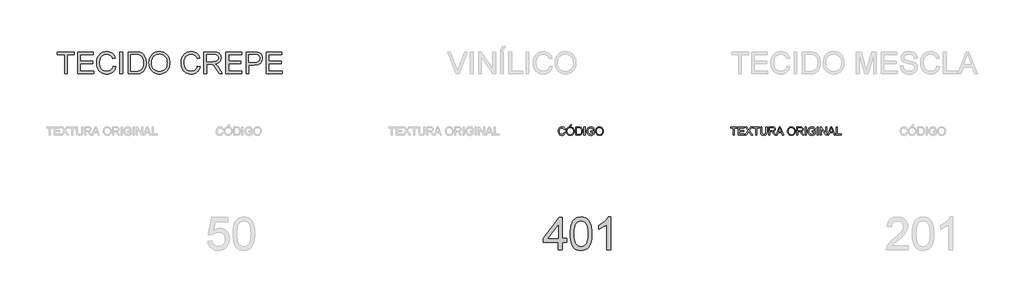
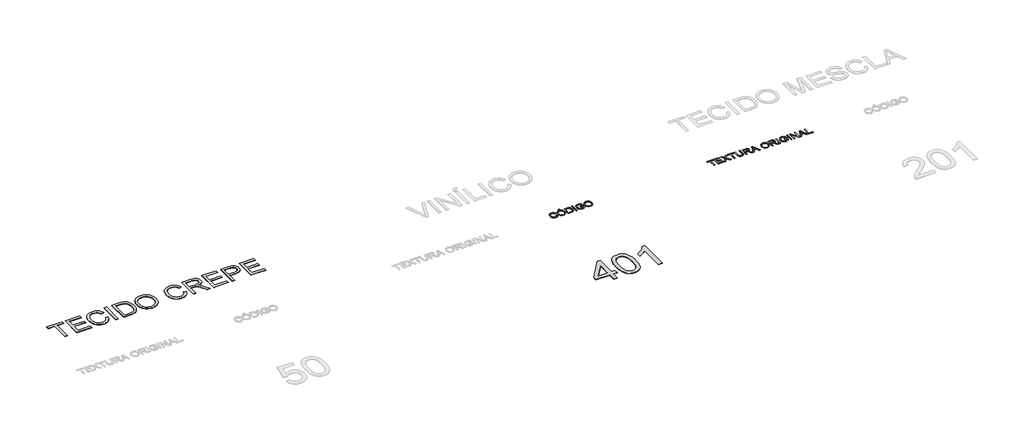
# One storey, part 7 of 19: 4 proxies.
"""IFC4 building model written with IfcOpenShell, lengths in millimetres."""

from ifc_helpers import new_model, si_unit, origin, origin_with_axes, place, context, project, spatial, polyline, outline, extrude, element, save

model = new_model("IFC4")

# Units and contexts
model_context = context("Model", 3, world=origin())
ifc_project = project(units=[si_unit("LENGTHUNIT", "METRE", prefix="MILLI")], contexts=[model_context])

# Site, building, storey
site = spatial("IfcSite", under=ifc_project)
building = spatial("IfcBuilding", under=site)
storey = spatial("IfcBuildingStorey", under=building, Name="Marelli - Linha ACTIVE - Planta Baixa", Elevation=0.0)

# Proxies
placement = place(None, origin())
element("IfcBuildingElementProxy", 1, Name="1200mm Arial", ObjectType="1200mm Arial", at=placement, inside=storey, context=model_context, shape_type="SweptSolid", body=[
    extrude(outline(polyline([(-12417.4335651, -108980.5663201), (-12417.4335651, -108698.0329478), (-12963.6647515, -108698.0329478), (-12963.6647515, -108547.3484825), (-12379.7624488, -107793.9261564), (-12266.7490998, -107793.9261564), (-12266.7490998, -108547.3484825), (-12116.0646346, -108547.3484825), (-12116.0646346, -108698.0329478), (-12266.7490998, -108698.0329478), (-12266.7490998, -108980.5663201), (-12417.4335651, -108980.5663201)]), holes=[polyline([(-12417.4335651, -108547.3484825), (-12417.4335651, -108081.7570295), (-12778.2522259, -108547.3484825), (-12417.4335651, -108547.3484825)])]), origin_with_axes(), (0.0, 0.0, 1.0), 10.0),
    extrude(outline(polyline([(-11984.2157275, -108387.5405438), (-11981.4474155, -108286.1798571), (-11973.1424795, -108194.5864374), (-11959.3009194, -108112.7602846), (-11939.9227353, -108040.7013988), (-11915.0907006, -107977.8211688), (-11884.8875888, -107923.5309833), (-11849.3133999, -107877.8308425), (-11808.3681338, -107840.7207462), (-11761.9138349, -107812.0075565), (-11709.8125473, -107791.4981353), (-11652.0642711, -107779.1924825), (-11588.6690063, -107775.0905983), (-11541.028288, -107777.5186194), (-11495.8155907, -107784.8026829), (-11453.0309147, -107796.9427888), (-11412.6742598, -107813.938937), (-11375.7205134, -107835.5060189), (-11343.1445627, -107861.3589261), (-11314.9464078, -107891.4976586), (-11291.1260486, -107925.9222163), (-11270.4878687, -107964.4946435), (-11251.8362515, -108007.0769844), (-11220.4927056, -108104.2714076), (-11208.5181466, -108161.4310726), (-11199.9648902, -108227.6958169), (-11194.8329364, -108303.0656407), (-11193.1222851, -108387.5405438), (-11195.863006, -108488.2574371), (-11204.0851686, -108579.3910043), (-11217.7887729, -108660.9412456), (-11236.9738189, -108732.9081609), (-11261.6127156, -108795.8159821), (-11291.6778716, -108850.188941), (-11327.1692871, -108896.0270376), (-11368.086962, -108933.3302719), (-11414.5964433, -108962.2365997), (-11466.8632777, -108982.8839766), (-11524.8874654, -108995.2724028), (-11588.6690063, -108999.4018782), (-11631.3433178, -108997.6084535), (-11671.6631844, -108992.2281793), (-11709.6286063, -108983.2610557), (-11745.2395835, -108970.7070826), (-11778.4961158, -108954.5662601), (-11809.3982034, -108934.8385881), (-11837.9458463, -108911.5240666), (-11864.1390443, -108884.6226957), (-11892.2820169, -108842.0265592), (-11916.6725932, -108793.8478134), (-11937.3107732, -108740.0864583), (-11954.1965567, -108680.742494), (-11967.329944, -108615.8159204), (-11976.7109348, -108545.3067375), (-11982.3395294, -108469.2149453), (-11984.2157275, -108387.5405438)]), holes=[polyline([(-11833.5312623, -108387.2462382), (-11829.1166784, -108518.2398197), (-11815.8729265, -108624.2726077), (-11805.9401127, -108667.9287043), (-11793.8000068, -108705.3446024), (-11779.452609, -108736.5203023), (-11762.8979192, -108761.4558037), (-11725.5211085, -108799.6327578), (-11684.0240195, -108826.9020107), (-11638.4066521, -108843.2635624), (-11588.6690063, -108848.717413), (-11538.9313606, -108843.2451683), (-11493.3139932, -108826.8284343), (-11451.8169041, -108799.4672109), (-11414.4400934, -108761.1614981), (-11397.8854036, -108736.1662158), (-11383.5380058, -108704.9583263), (-11371.3979, -108667.5378296), (-11361.4650861, -108623.9047257), (-11348.2213343, -108518.0006964), (-11343.8067503, -108387.2462382), (-11348.0741815, -108259.7199446), (-11360.8764749, -108155.5541577), (-11370.478195, -108112.2314542), (-11382.2136306, -108074.7488774), (-11396.0827819, -108043.1064273), (-11412.0856486, -108017.3041039), (-11448.83706, -107977.2601487), (-11490.8123956, -107948.6573236), (-11538.0116556, -107931.4956285), (-11590.4348399, -107925.7750635), (-11639.9149683, -107930.8150468), (-11684.7597835, -107945.9349968), (-11724.9692855, -107971.1349135), (-11760.5434745, -108006.4147968), (-11777.6499872, -108034.9624397), (-11792.4756317, -108068.954736), (-11805.0204077, -108108.3916859), (-11815.2843154, -108153.2732893), (-11828.9695256, -108259.3704567), (-11833.5312623, -108387.2462382)])]), origin_with_axes(), (0.0, 0.0, 1.0), 10.0),
    extrude(outline(polyline([(-10496.2066335, -108980.5663201), (-10646.8910987, -108980.5663201), (-10646.8910987, -108041.1428572), (-10709.7989198, -108092.0209371), (-10789.6293128, -108142.8254407), (-10873.4328313, -108187.2287975), (-10948.2600291, -108218.9034373), (-10948.2600291, -108076.4595287), (-10887.1088445, -108045.7965644), (-10829.9123913, -108012.0801796), (-10776.6706695, -107975.3103741), (-10727.3836792, -107935.4871482), (-10683.5229483, -107894.4499116), (-10646.5600049, -107854.0380744), (-10616.4948488, -107814.2516367), (-10593.3274802, -107775.0905983), (-10496.2066335, -107775.0905983), (-10496.2066335, -108980.5663201)])), origin_with_axes(), (0.0, 0.0, 1.0), 10.0),
])
element("IfcBuildingElementProxy", 2, Name="300mm Arial", ObjectType="300mm Arial", at=placement, inside=storey, context=model_context, shape_type="SweptSolid", body=[
    extrude(outline(polyline([(-6021.6681618, -104780.5663201), (-6021.6681618, -104516.8685059), (-6120.5548421, -104516.8685059), (-6120.5548421, -104479.1973896), (-5885.1103652, -104479.1973896), (-5885.1103652, -104516.8685059), (-5983.9970455, -104516.8685059), (-5983.9970455, -104780.5663201), (-6021.6681618, -104780.5663201)])), origin_with_axes(), (0.0, 0.0, 1.0), 10.0),
    extrude(outline(polyline([(-5842.7303593, -104780.5663201), (-5842.7303593, -104479.1973896), (-5626.1214406, -104479.1973896), (-5626.1214406, -104516.8685059), (-5805.059243, -104516.8685059), (-5805.059243, -104606.3374072), (-5635.5392196, -104606.3374072), (-5635.5392196, -104644.0085235), (-5805.059243, -104644.0085235), (-5805.059243, -104742.8952038), (-5621.412551, -104742.8952038), (-5621.412551, -104780.5663201), (-5842.7303593, -104780.5663201)])), origin_with_axes(), (0.0, 0.0, 1.0), 10.0),
    extrude(outline(polyline([(-5597.8681033, -104780.5663201), (-5481.6909693, -104616.3437974), (-5579.0325452, -104479.1973896), (-5533.8566362, -104479.1973896), (-5479.0422189, -104556.3790322), (-5460.5745427, -104586.4717794), (-5438.9430814, -104555.8639974), (-5384.7172753, -104479.1973896), (-5338.8791787, -104479.1973896), (-5436.2207547, -104616.7852558), (-5320.0436206, -104780.5663201), (-5365.2195296, -104780.5663201), (-5442.6219014, -104671.3789439), (-5458.7351328, -104648.717413), (-5476.4670449, -104673.5862359), (-5552.0300067, -104780.5663201), (-5597.8681033, -104780.5663201)])), origin_with_axes(), (0.0, 0.0, 1.0), 10.0),
    extrude(outline(polyline([(-5207.0302717, -104780.5663201), (-5207.0302717, -104516.8685059), (-5305.916952, -104516.8685059), (-5305.916952, -104479.1973896), (-5070.4724751, -104479.1973896), (-5070.4724751, -104516.8685059), (-5169.3591554, -104516.8685059), (-5169.3591554, -104780.5663201), (-5207.0302717, -104780.5663201)])), origin_with_axes(), (0.0, 0.0, 1.0), 10.0),
    extrude(outline(polyline([(-4830.3191086, -104479.1973896), (-4792.6479923, -104479.1973896), (-4792.6479923, -104653.0584205), (-4795.2047722, -104693.7737604), (-4802.8751118, -104725.1265034), (-4817.2041155, -104749.3147446), (-4839.7368877, -104768.5365788), (-4870.5286107, -104781.0905519), (-4909.6344668, -104785.2752096), (-4947.8849972, -104781.6331779), (-4978.4651881, -104770.7070826), (-5001.3842364, -104752.8740029), (-5016.6513392, -104728.5110178), (-5025.2321867, -104695.8338995), (-5028.0924692, -104653.0584205), (-5028.0924692, -104479.1973896), (-4990.4213529, -104479.1973896), (-4990.4213529, -104651.7340454), (-4988.5635488, -104685.588386), (-4982.9901366, -104709.1604248), (-4972.8917758, -104725.4851883), (-4957.4591261, -104737.597703), (-4937.335981, -104745.1024957), (-4913.1661339, -104747.6040933), (-4874.8512241, -104742.6560805), (-4860.5084248, -104736.4710644), (-4849.375396, -104727.812042), (-4841.0382702, -104715.6351479), (-4835.0831804, -104698.8965171), (-4830.3191086, -104651.7340454), (-4830.3191086, -104479.1973896)])), origin_with_axes(), (0.0, 0.0, 1.0), 10.0),
    extrude(outline(polyline([(-4726.7235388, -104780.5663201), (-4726.7235388, -104479.1973896), (-4596.8611945, -104479.1973896), (-4561.9583902, -104481.2299376), (-4536.5653355, -104487.3275817), (-4518.0056888, -104498.5847708), (-4503.6031087, -104516.0959537), (-4494.3600736, -104537.8101885), (-4491.2790618, -104561.6765329), (-4496.3834245, -104591.36461), (-4511.6965126, -104615.9759154), (-4523.2962917, -104626.0052983), (-4537.6781785, -104634.0205273), (-4574.7882748, -104644.0085235), (-4553.3775426, -104660.1217548), (-4522.843337, -104698.8965171), (-4472.5906565, -104780.5663201), (-4516.3686139, -104780.5663201), (-4555.5848346, -104718.0999573), (-4583.9117482, -104676.750021), (-4603.8141642, -104657.2154871), (-4621.7300173, -104650.0417882), (-4643.5822079, -104648.717413), (-4689.0524225, -104648.717413), (-4689.0524225, -104780.5663201), (-4726.7235388, -104780.5663201)]), holes=[polyline([(-4689.0524225, -104611.0462967), (-4604.7338692, -104611.0462967), (-4580.5180368, -104609.7127245), (-4561.7284639, -104605.7120078), (-4547.5834012, -104598.7774322), (-4537.3010994, -104588.6422832), (-4531.0379085, -104576.3826157), (-4528.9501782, -104563.0744845), (-4532.9325008, -104544.6987789), (-4544.8794685, -104529.8915286), (-4565.434875, -104520.1242616), (-4595.2425137, -104516.8685059), (-4689.0524225, -104516.8685059), (-4689.0524225, -104611.0462967)])]), origin_with_axes(), (0.0, 0.0, 1.0), 10.0),
    extrude(outline(polyline([(-4460.4505507, -104780.5663201), (-4340.1531382, -104479.1973896), (-4308.0738283, -104479.1973896), (-4187.7764158, -104780.5663201), (-4227.5812477, -104780.5663201), (-4262.0885789, -104686.3885293), (-4386.211964, -104686.3885293), (-4420.6457188, -104780.5663201), (-4460.4505507, -104780.5663201)]), holes=[polyline([(-4372.379601, -104648.717413), (-4275.8473655, -104648.717413), (-4302.9970567, -104574.6259792), (-4324.1134832, -104516.8685059), (-4342.875465, -104568.1512561), (-4372.379601, -104648.717413)])]), origin_with_axes(), (0.0, 0.0, 1.0), 10.0),
    extrude(outline(polyline([(-4043.9345557, -104633.8549804), (-4041.4237611, -104598.5061192), (-4033.8913772, -104567.213157), (-4021.3374042, -104539.9760937), (-4003.7618418, -104516.7949295), (-3982.2177525, -104498.2858666), (-3957.7581983, -104485.0651074), (-3930.3831794, -104477.1326519), (-3900.0926956, -104474.4885001), (-3860.5637752, -104479.454907), (-3825.118345, -104494.3541278), (-3795.6877854, -104518.1376988), (-3774.2034768, -104549.7571563), (-3761.0700896, -104587.68579), (-3756.6922939, -104630.3968896), (-3761.3000159, -104673.6782064), (-3775.1231818, -104712.140269), (-3797.3984366, -104743.8149088), (-3827.3624252, -104766.7339571), (-3862.5043527, -104780.6398965), (-3900.3134248, -104785.2752096), (-3940.4493505, -104780.1524528), (-3976.0971158, -104764.7841825), (-4005.454099, -104740.5591531), (-4026.7176783, -104708.8661192), (-4039.6303364, -104672.3998164), (-4043.9345557, -104633.8549804)]), holes=[polyline([(-4006.2634394, -104634.2228624), (-4004.3803434, -104659.1974513), (-3998.7310556, -104681.3669401), (-3989.3155757, -104700.7313286), (-3976.133904, -104717.2906169), (-3960.1103438, -104730.5527628), (-3942.1691988, -104740.0257242), (-3922.3104688, -104745.709501), (-3900.534154, -104747.6040933), (-3878.3853586, -104745.6911069), (-3858.2921039, -104739.9521478), (-3840.2543898, -104730.3872159), (-3824.2722164, -104716.9963113), (-3811.1871137, -104700.0875351), (-3801.8406117, -104679.9689885), (-3796.2327106, -104656.6406715), (-3794.3634102, -104630.102584), (-3797.5639835, -104596.7540812), (-3807.1657036, -104567.9305269), (-3822.9202501, -104544.358488), (-3844.5793025, -104526.7645316), (-3870.7081212, -104515.8108452), (-3899.8719664, -104512.1596164), (-3920.8918239, -104513.9185522), (-3940.3941682, -104519.1953595), (-3958.3789992, -104527.9900385), (-3974.846317, -104540.302589), (-3988.5913081, -104556.7262208), (-3998.4091588, -104577.8541437), (-4004.2998693, -104603.6863575), (-4006.2634394, -104634.2228624)])]), origin_with_axes(), (0.0, 0.0, 1.0), 10.0),
    extrude(outline(polyline([(-3704.894509, -104780.5663201), (-3704.894509, -104479.1973896), (-3575.0321647, -104479.1973896), (-3540.1293604, -104481.2299376), (-3514.7363057, -104487.3275817), (-3496.176659, -104498.5847708), (-3481.7740789, -104516.0959537), (-3472.5310438, -104537.8101885), (-3469.450032, -104561.6765329), (-3474.5543947, -104591.36461), (-3489.8674828, -104615.9759154), (-3501.4672619, -104626.0052983), (-3515.8491487, -104634.0205273), (-3552.959245, -104644.0085235), (-3531.5485128, -104660.1217548), (-3501.0143072, -104698.8965171), (-3450.7616267, -104780.5663201), (-3494.5395841, -104780.5663201), (-3533.7558048, -104718.0999573), (-3562.0827184, -104676.750021), (-3581.9851344, -104657.2154871), (-3599.9009875, -104650.0417882), (-3621.753178, -104648.717413), (-3667.2233927, -104648.717413), (-3667.2233927, -104780.5663201), (-3704.894509, -104780.5663201)]), holes=[polyline([(-3667.2233927, -104611.0462967), (-3582.9048394, -104611.0462967), (-3558.689007, -104609.7127245), (-3539.8994341, -104605.7120078), (-3525.7543714, -104598.7774322), (-3515.4720696, -104588.6422832), (-3509.2088787, -104576.3826157), (-3507.1211484, -104563.0744845), (-3511.1034709, -104544.6987789), (-3523.0504387, -104529.8915286), (-3543.6058452, -104520.1242616), (-3573.4134839, -104516.8685059), (-3667.2233927, -104516.8685059), (-3667.2233927, -104611.0462967)])]), origin_with_axes(), (0.0, 0.0, 1.0), 10.0),
    extrude(outline(polyline([(-3398.816689, -104780.5663201), (-3398.816689, -104479.1973896), (-3361.1455727, -104479.1973896), (-3361.1455727, -104780.5663201), (-3398.816689, -104780.5663201)])), origin_with_axes(), (0.0, 0.0, 1.0), 10.0),
    extrude(outline(polyline([(-3144.5366539, -104662.8440816), (-3144.5366539, -104625.1729653), (-3022.1055259, -104625.1729653), (-3022.1055259, -104737.8184322), (-3051.8579823, -104758.5117945), (-3082.5485377, -104773.355833), (-3114.1036159, -104782.2953654), (-3146.4496403, -104785.2752096), (-3188.7100845, -104780.5387289), (-3226.9054326, -104766.3292869), (-3258.6352547, -104743.1435241), (-3281.4991207, -104711.4780814), (-3295.3222867, -104673.4942654), (-3299.9300087, -104631.3533828), (-3295.3406808, -104588.9089976), (-3281.5726971, -104549.4260625), (-3259.1962748, -104516.3074859), (-3228.7816308, -104492.9561762), (-3191.7359139, -104479.1054191), (-3149.4662726, -104474.4885001), (-3118.4354263, -104477.1648416), (-3090.531577, -104485.1938661), (-3067.0331146, -104497.9961596), (-3049.218429, -104514.9923078), (-3036.0390565, -104537.0008481), (-3026.4465335, -104564.8403181), (-3061.1745938, -104574.6259792), (-3068.9277068, -104554.7695485), (-3078.354683, -104539.7875542), (-3090.8258826, -104528.493577), (-3107.7116662, -104519.7011973), (-3127.8440084, -104514.0450116), (-3150.0548838, -104512.1596164), (-3176.0549438, -104514.1921644), (-3198.2842134, -104520.2898085), (-3216.6599191, -104529.6891935), (-3231.0992874, -104541.6269642), (-3250.4866685, -104570.6528536), (-3259.3158364, -104599.0901318), (-3262.2588924, -104629.8082784), (-3258.7180282, -104665.8331228), (-3248.0954355, -104695.4752146), (-3230.7130113, -104718.5230216), (-3206.8926521, -104734.7650117), (-3179.0163939, -104744.3943229), (-3149.4662726, -104747.6040933), (-3123.3742421, -104745.1852692), (-3097.9260051, -104737.9287968), (-3075.8254943, -104727.9316036), (-3059.7766422, -104717.2906169), (-3059.7766422, -104662.8440816), (-3144.5366539, -104662.8440816)])), origin_with_axes(), (0.0, 0.0, 1.0), 10.0),
    extrude(outline(polyline([(-2956.1810724, -104780.5663201), (-2956.1810724, -104479.1973896), (-2918.5099561, -104479.1973896), (-2918.5099561, -104780.5663201), (-2956.1810724, -104780.5663201)])), origin_with_axes(), (0.0, 0.0, 1.0), 10.0),
    extrude(outline(polyline([(-2843.1677235, -104780.5663201), (-2843.1677235, -104479.1973896), (-2802.8478568, -104479.1973896), (-2645.3943628, -104717.9528045), (-2645.3943628, -104479.1973896), (-2607.7232465, -104479.1973896), (-2607.7232465, -104780.5663201), (-2648.0431132, -104780.5663201), (-2805.4966072, -104541.7373288), (-2805.4966072, -104780.5663201), (-2843.1677235, -104780.5663201)])), origin_with_axes(), (0.0, 0.0, 1.0), 10.0),
    extrude(outline(polyline([(-2576.8947353, -104780.5663201), (-2456.5973229, -104479.1973896), (-2424.5180129, -104479.1973896), (-2304.2206005, -104780.5663201), (-2344.0254324, -104780.5663201), (-2378.5327635, -104686.3885293), (-2502.6561487, -104686.3885293), (-2537.0899035, -104780.5663201), (-2576.8947353, -104780.5663201)]), holes=[polyline([(-2488.8237857, -104648.717413), (-2392.2915502, -104648.717413), (-2419.4412414, -104574.6259792), (-2440.5576679, -104516.8685059), (-2459.3196497, -104568.1512561), (-2488.8237857, -104648.717413)])]), origin_with_axes(), (0.0, 0.0, 1.0), 10.0),
    extrude(outline(polyline([(-2263.9743103, -104780.5663201), (-2263.9743103, -104479.1973896), (-2226.3031939, -104479.1973896), (-2226.3031939, -104742.8952038), (-2075.6187287, -104742.8952038), (-2075.6187287, -104780.5663201), (-2263.9743103, -104780.5663201)])), origin_with_axes(), (0.0, 0.0, 1.0), 10.0),
])
element("IfcBuildingElementProxy", 3, Name="300mm Arial", ObjectType="300mm Arial", at=placement, inside=storey, context=model_context, shape_type="SweptSolid", body=[
    extrude(outline(polyline([(-12200.8246463, -104673.4390831), (-12163.15353, -104683.1511677), (-12170.6077389, -104706.5783531), (-12180.5359543, -104727.0486868), (-12192.938176, -104744.5621691), (-12207.8144042, -104759.1187998), (-12224.8289465, -104770.5622291), (-12243.6461105, -104778.7361071), (-12264.2658964, -104783.640434), (-12286.688304, -104785.2752096), (-12330.383488, -104780.3271968), (-12365.0839571, -104765.4831583), (-12391.6818254, -104741.2581289), (-12411.0692065, -104708.1671434), (-12422.9058097, -104669.2636224), (-12426.8513441, -104627.6009865), (-12422.3907749, -104583.6574822), (-12409.0090674, -104545.7104543), (-12387.4051972, -104514.9647166), (-12358.2781402, -104492.6250824), (-12323.7340209, -104479.0226457), (-12285.8789636, -104474.4885001), (-12244.5750126, -104480.3562179), (-12226.6062764, -104487.6908652), (-12210.4263664, -104497.9593714), (-12196.301997, -104510.8904235), (-12184.4998828, -104526.2127086), (-12167.8624195, -104564.0309777), (-12205.5335358, -104573.0072984), (-12218.5933467, -104545.5357104), (-12236.4356234, -104526.6909552), (-12259.2810953, -104515.7924511), (-12287.3504916, -104512.1596164), (-12319.705713, -104516.1879242), (-12346.2851872, -104528.2728478), (-12366.4543176, -104547.1451941), (-12379.5785078, -104571.5357704), (-12386.7797978, -104599.1085259), (-12389.1802278, -104627.5274101), (-12386.3383394, -104662.3290468), (-12377.8126742, -104692.421794), (-12363.2813354, -104716.6560205), (-12342.4224262, -104733.8820949), (-12317.4156476, -104744.1735937), (-12290.4407003, -104747.6040933), (-12258.9959868, -104742.931992), (-12232.7935917, -104728.9156879), (-12213.0107374, -104705.7023341), (-12200.8246463, -104673.4390831)])), origin_with_axes(), (0.0, 0.0, 1.0), 10.0),
    extrude(outline(polyline([(-12125.4824137, -104633.8549804), (-12122.9716191, -104598.5061192), (-12115.4392352, -104567.213157), (-12102.8852621, -104539.9760937), (-12085.3096998, -104516.7949295), (-12063.7656105, -104498.2858666), (-12039.3060563, -104485.0651074), (-12011.9310374, -104477.1326519), (-11981.6405536, -104474.4885001), (-11942.1116332, -104479.454907), (-11906.666203, -104494.3541278), (-11877.2356433, -104518.1376988), (-11855.7513348, -104549.7571563), (-11842.6179476, -104587.68579), (-11838.2401519, -104630.3968896), (-11842.8478738, -104673.6782064), (-11856.6710398, -104712.140269), (-11878.9462946, -104743.8149088), (-11908.9102831, -104766.7339571), (-11944.0522107, -104780.6398965), (-11981.8612828, -104785.2752096), (-12021.9972084, -104780.1524528), (-12057.6449738, -104764.7841825), (-12087.001957, -104740.5591531), (-12108.2655363, -104708.8661192), (-12121.1781943, -104672.3998164), (-12125.4824137, -104633.8549804)]), holes=[polyline([(-12087.8112974, -104634.2228624), (-12085.9282014, -104659.1974513), (-12080.2789135, -104681.3669401), (-12070.8634337, -104700.7313286), (-12057.681762, -104717.2906169), (-12041.6582018, -104730.5527628), (-12023.7170568, -104740.0257242), (-12003.8583268, -104745.709501), (-11982.082012, -104747.6040933), (-11959.9332166, -104745.6911069), (-11939.8399619, -104739.9521478), (-11921.8022478, -104730.3872159), (-11905.8200744, -104716.9963113), (-11892.7349717, -104700.0875351), (-11883.3884697, -104679.9689885), (-11877.7805685, -104656.6406715), (-11875.9112682, -104630.102584), (-11879.1118415, -104596.7540812), (-11888.7135616, -104567.9305269), (-11904.468108, -104544.358488), (-11926.1271605, -104526.7645316), (-11952.2559792, -104515.8108452), (-11981.4198244, -104512.1596164), (-12002.4396819, -104513.9185522), (-12021.9420261, -104519.1953595), (-12039.9268572, -104527.9900385), (-12056.394175, -104540.302589), (-12070.139166, -104556.7262208), (-12079.9570168, -104577.8541437), (-12085.8477272, -104603.6863575), (-12087.8112974, -104634.2228624)])]), origin_with_axes(), (0.0, 0.0, 1.0), 10.0),
    extrude(outline(polyline([(-12007.7601752, -104460.3618315), (-11979.506838, -104403.855157), (-11932.4179426, -104403.855157), (-11979.506838, -104460.3618315), (-12007.7601752, -104460.3618315)])), origin_with_axes(), (0.0, 0.0, 1.0), 10.0),
    extrude(outline(polyline([(-11786.4423669, -104780.5663201), (-11786.4423669, -104479.1973896), (-11682.4789151, -104479.1973896), (-11628.6945674, -104483.5383972), (-11604.6718731, -104491.9077126), (-11584.4015752, -104505.0962821), (-11563.5610602, -104528.0521186), (-11548.7170217, -104556.5997614), (-11539.8326715, -104590.1873876), (-11536.8712214, -104628.2631741), (-11538.8761783, -104660.6091985), (-11544.8910489, -104689.0740679), (-11554.0513106, -104713.3082943), (-11565.4924406, -104732.9623899), (-11578.6626161, -104748.477813), (-11593.0100139, -104760.2960221), (-11609.4819302, -104769.0608107), (-11629.0256612, -104775.4159721), (-11677.47572, -104780.5663201), (-11786.4423669, -104780.5663201)]), holes=[polyline([(-11748.7712506, -104742.8952038), (-11682.1110331, -104742.8952038), (-11654.5382776, -104741.5340404), (-11633.6241861, -104737.4505502), (-11617.8420485, -104730.8838566), (-11605.6651545, -104722.0730828), (-11592.5777525, -104705.7667134), (-11582.7461062, -104684.6594839), (-11576.5932798, -104658.6594239), (-11574.5423377, -104627.6745629), (-11578.5614485, -104586.6189322), (-11590.6187809, -104556.3054558), (-11608.4334665, -104535.4833349), (-11629.724637, -104522.9017706), (-11651.3928865, -104518.3768221), (-11683.1411027, -104516.8685059), (-11748.7712506, -104516.8685059), (-11748.7712506, -104742.8952038)])]), origin_with_axes(), (0.0, 0.0, 1.0), 10.0),
    extrude(outline(polyline([(-11480.3645469, -104780.5663201), (-11480.3645469, -104479.1973896), (-11442.6934306, -104479.1973896), (-11442.6934306, -104780.5663201), (-11480.3645469, -104780.5663201)])), origin_with_axes(), (0.0, 0.0, 1.0), 10.0),
    extrude(outline(polyline([(-11226.0845119, -104662.8440816), (-11226.0845119, -104625.1729653), (-11103.6533839, -104625.1729653), (-11103.6533839, -104737.8184322), (-11133.4058402, -104758.5117945), (-11164.0963957, -104773.355833), (-11195.6514738, -104782.2953654), (-11227.9974983, -104785.2752096), (-11270.2579425, -104780.5387289), (-11308.4532906, -104766.3292869), (-11340.1831127, -104743.1435241), (-11363.0469787, -104711.4780814), (-11376.8701447, -104673.4942654), (-11381.4778666, -104631.3533828), (-11376.8885388, -104588.9089976), (-11363.1205551, -104549.4260625), (-11340.7441327, -104516.3074859), (-11310.3294888, -104492.9561762), (-11273.2837719, -104479.1054191), (-11231.0141306, -104474.4885001), (-11199.9832843, -104477.1648416), (-11172.079435, -104485.1938661), (-11148.5809725, -104497.9961596), (-11130.7662869, -104514.9923078), (-11117.5869145, -104537.0008481), (-11107.9943914, -104564.8403181), (-11142.7224518, -104574.6259792), (-11150.4755648, -104554.7695485), (-11159.9025409, -104539.7875542), (-11172.3737406, -104528.493577), (-11189.2595242, -104519.7011973), (-11209.3918663, -104514.0450116), (-11231.6027418, -104512.1596164), (-11257.6028018, -104514.1921644), (-11279.8320714, -104520.2898085), (-11298.207777, -104529.6891935), (-11312.6471453, -104541.6269642), (-11332.0345265, -104570.6528536), (-11340.8636944, -104599.0901318), (-11343.8067503, -104629.8082784), (-11340.2658861, -104665.8331228), (-11329.6432935, -104695.4752146), (-11312.2608693, -104718.5230216), (-11288.4405101, -104734.7650117), (-11260.5642519, -104744.3943229), (-11231.0141306, -104747.6040933), (-11204.9221001, -104745.1852692), (-11179.4738631, -104737.9287968), (-11157.3733522, -104727.9316036), (-11141.3245002, -104717.2906169), (-11141.3245002, -104662.8440816), (-11226.0845119, -104662.8440816)])), origin_with_axes(), (0.0, 0.0, 1.0), 10.0),
    extrude(outline(polyline([(-11056.5644885, -104633.8549804), (-11054.0536939, -104598.5061192), (-11046.52131, -104567.213157), (-11033.9673369, -104539.9760937), (-11016.3917746, -104516.7949295), (-10994.8476853, -104498.2858666), (-10970.3881311, -104485.0651074), (-10943.0131122, -104477.1326519), (-10912.7226284, -104474.4885001), (-10873.193708, -104479.454907), (-10837.7482778, -104494.3541278), (-10808.3177182, -104518.1376988), (-10786.8334096, -104549.7571563), (-10773.7000224, -104587.68579), (-10769.3222267, -104630.3968896), (-10773.9299487, -104673.6782064), (-10787.7531146, -104712.140269), (-10810.0283694, -104743.8149088), (-10839.9923579, -104766.7339571), (-10875.1342855, -104780.6398965), (-10912.9433576, -104785.2752096), (-10953.0792833, -104780.1524528), (-10988.7270486, -104764.7841825), (-11018.0840318, -104740.5591531), (-11039.3476111, -104708.8661192), (-11052.2602692, -104672.3998164), (-11056.5644885, -104633.8549804)]), holes=[polyline([(-11018.8933722, -104634.2228624), (-11017.0102762, -104659.1974513), (-11011.3609883, -104681.3669401), (-11001.9455085, -104700.7313286), (-10988.7638368, -104717.2906169), (-10972.7402766, -104730.5527628), (-10954.7991316, -104740.0257242), (-10934.9404016, -104745.709501), (-10913.1640868, -104747.6040933), (-10891.0152914, -104745.6911069), (-10870.9220367, -104739.9521478), (-10852.8843226, -104730.3872159), (-10836.9021492, -104716.9963113), (-10823.8170465, -104700.0875351), (-10814.4705445, -104679.9689885), (-10808.8626434, -104656.6406715), (-10806.993343, -104630.102584), (-10810.1939163, -104596.7540812), (-10819.7956364, -104567.9305269), (-10835.5501829, -104544.358488), (-10857.2092353, -104526.7645316), (-10883.338054, -104515.8108452), (-10912.5018992, -104512.1596164), (-10933.5217567, -104513.9185522), (-10953.024101, -104519.1953595), (-10971.008932, -104527.9900385), (-10987.4762498, -104540.302589), (-11001.2212409, -104556.7262208), (-11011.0390916, -104577.8541437), (-11016.929802, -104603.6863575), (-11018.8933722, -104634.2228624)])]), origin_with_axes(), (0.0, 0.0, 1.0), 10.0),
])
element("IfcBuildingElementProxy", 4, Name="800mm Arial", ObjectType="800mm Arial", at=placement, inside=storey, context=model_context, shape_type="SweptSolid", body=[
    extrude(outline(polyline([(-30463.8805688, -102530.5663201), (-30463.8805688, -101831.101209), (-30726.1799854, -101831.101209), (-30726.1799854, -101731.1776217), (-30101.6575649, -101731.1776217), (-30101.6575649, -101831.101209), (-30363.9569815, -101831.101209), (-30363.9569815, -102530.5663201), (-30463.8805688, -102530.5663201)])), origin_with_axes(), (0.0, 0.0, 1.0), 10.0),
    extrude(outline(polyline([(-29989.2435292, -102530.5663201), (-29989.2435292, -101731.1776217), (-29414.6829022, -101731.1776217), (-29414.6829022, -101831.101209), (-29889.3199419, -101831.101209), (-29889.3199419, -102068.4197288), (-29439.663799, -102068.4197288), (-29439.663799, -102168.3433161), (-29889.3199419, -102168.3433161), (-29889.3199419, -102430.6427328), (-29402.1924538, -102430.6427328), (-29402.1924538, -102530.5663201), (-29989.2435292, -102530.5663201)])), origin_with_axes(), (0.0, 0.0, 1.0), 10.0),
    extrude(outline(polyline([(-28690.2368943, -102246.4086187), (-28590.3133071, -102272.1701686), (-28610.0857845, -102334.3113692), (-28636.4206264, -102388.6094464), (-28669.3178328, -102435.0644003), (-28708.7774037, -102473.6762308), (-28753.9089068, -102504.030216), (-28803.8219096, -102525.7116341), (-28858.5164122, -102538.7204849), (-28917.9924146, -102543.0567685), (-28978.9260426, -102539.7755862), (-29033.8949935, -102529.9320395), (-29082.8992674, -102513.5261282), (-29125.9388643, -102490.5578525), (-29163.6053728, -102461.368748), (-29196.4903815, -102426.3003503), (-29224.5938905, -102385.3526596), (-29247.9158996, -102338.5256757), (-29266.2307514, -102287.8442176), (-29279.3127885, -102235.3331039), (-29287.1620107, -102180.9923347), (-29289.7784181, -102124.8219099), (-29286.820475, -102064.5530568), (-29277.9466457, -102008.260655), (-29263.1569302, -101955.9447046), (-29242.4513284, -101907.6052055), (-29216.2933532, -101864.0411074), (-29185.1465172, -101826.0513598), (-29149.0108205, -101793.6359626), (-29107.8862631, -101766.794916), (-29063.169482, -101745.7477786), (-29016.2571142, -101730.714109), (-28967.1491598, -101721.6939072), (-28915.8456188, -101718.6871733), (-28858.6932789, -101722.5782407), (-28806.2858457, -101734.251443), (-28758.6233192, -101753.7067801), (-28715.7056993, -101780.9442521), (-28678.2404529, -101815.2441944), (-28646.9350468, -101855.8869426), (-28621.789481, -101902.8724966), (-28602.8037555, -101956.2008564), (-28702.7273428, -101980.0107737), (-28718.4623803, -101940.7158718), (-28737.3688208, -101907.1416928), (-28759.4466642, -101879.2882368), (-28784.6959105, -101857.1555038), (-28813.2629321, -101840.2921786), (-28845.2941016, -101828.2469464), (-28880.7894188, -101821.0198071), (-28919.7488839, -101818.6107606), (-28964.5754444, -101821.2820577), (-29005.5719259, -101829.2959489), (-29042.7383286, -101842.6524343), (-29076.0746523, -101861.3515138), (-29105.1600764, -101884.5515459), (-29129.57378, -101911.410889), (-29149.3157631, -101941.9295433), (-29164.3860258, -101976.1075085), (-29175.528628, -102012.3956765), (-29183.4876296, -102049.2449389), (-29188.2630305, -102086.6552956), (-29189.8548308, -102124.6267467), (-29187.9702856, -102172.3441629), (-29182.31665, -102216.938967), (-29172.8939241, -102258.411159), (-29159.7021077, -102296.7607389), (-29142.5277411, -102331.2253502), (-29121.1573645, -102361.0426365), (-29095.590978, -102386.2125977), (-29065.8285813, -102406.7352339), (-29033.3156026, -102422.6593358), (-28999.4974696, -102434.0336944), (-28964.3741823, -102440.8583095), (-28927.9457407, -102443.1331812), (-28884.5036196, -102440.0349645), (-28844.537844, -102430.7403144), (-28808.0484139, -102415.2492309), (-28775.0353293, -102393.5617141), (-28746.2792432, -102365.7753454), (-28722.5608087, -102331.9877067), (-28703.8800257, -102292.1987977), (-28690.2368943, -102246.4086187)])), origin_with_axes(), (0.0, 0.0, 1.0), 10.0),
    extrude(outline(polyline([(-28440.4279261, -102530.5663201), (-28440.4279261, -101731.1776217), (-28340.5043388, -101731.1776217), (-28340.5043388, -102530.5663201), (-28440.4279261, -102530.5663201)])), origin_with_axes(), (0.0, 0.0, 1.0), 10.0),
    extrude(outline(polyline([(-28140.6571642, -102530.5663201), (-28140.6571642, -101731.1776217), (-27864.8914829, -101731.1776217), (-27782.4837979, -101734.0562798), (-27722.2271424, -101742.6922539), (-27689.1225751, -101752.1942649), (-27658.5063392, -101764.8920743), (-27630.3784349, -101780.785682), (-27604.7388621, -101799.875088), (-27575.1106402, -101828.4665051), (-27549.4588697, -101860.766024), (-27527.7835505, -101896.7736448), (-27510.0846827, -101936.4893675), (-27496.3378708, -101979.5472609), (-27486.5187195, -102025.5813941), (-27480.6272287, -102074.5917668), (-27478.6633984, -102126.5783793), (-27483.9815972, -102212.3770259), (-27499.9361934, -102287.8808107), (-27524.2340188, -102352.1627083), (-27554.5819052, -102404.2956932), (-27589.5161281, -102445.4507449), (-27627.5729631, -102476.7988429), (-27671.2651371, -102500.0476658), (-27723.1053771, -102516.9048921), (-27783.1912647, -102527.1509631), (-27851.6203815, -102530.5663201), (-28140.6571642, -102530.5663201)]), holes=[polyline([(-28040.7335769, -102430.6427328), (-27863.9156666, -102430.6427328), (-27790.7782363, -102427.0322125), (-27735.3030806, -102416.2006518), (-27693.4405621, -102398.7823312), (-27661.1410432, -102375.4115312), (-27642.7042143, -102355.3768032), (-27626.4263789, -102332.1584745), (-27612.3075371, -102305.7565452), (-27600.3476888, -102276.1710153), (-27590.8273812, -102243.3408963), (-27584.0271615, -102207.2051996), (-27578.5869857, -102125.0170732), (-27581.2521839, -102067.0047952), (-27589.2477786, -102016.1159761), (-27602.5737697, -101972.3506159), (-27621.2301572, -101935.7087145), (-27643.704426, -101905.3608281), (-27668.4840607, -101880.4775129), (-27695.5690614, -101861.0587689), (-27724.959428, -101847.104596), (-27750.3550468, -101840.1031142), (-27782.4350071, -101835.1020558), (-27866.6479522, -101831.101209), (-28040.7335769, -101831.101209), (-28040.7335769, -102430.6427328)])]), origin_with_axes(), (0.0, 0.0, 1.0), 10.0),
    extrude(outline(polyline([(-27378.7398111, -102141.4107867), (-27377.0748246, -102093.1841164), (-27372.079865, -102047.6470397), (-27363.7549323, -102004.7995567), (-27352.1000266, -101964.6416672), (-27337.1151478, -101927.1733714), (-27318.800296, -101892.3946692), (-27297.1554711, -101860.3055607), (-27272.1806731, -101830.9060458), (-27244.5742206, -101804.6047475), (-27215.0344321, -101781.8102891), (-27183.5613076, -101762.5226704), (-27150.154847, -101746.7418914), (-27114.8150505, -101734.4679523), (-27077.5419179, -101725.7008528), (-27038.3354494, -101720.4405932), (-26997.1956448, -101718.6871733), (-26943.41597, -101721.9805533), (-26892.3441853, -101731.8606931), (-26843.9802908, -101748.3275929), (-26798.3242865, -101771.3812526), (-26756.6569313, -101800.326403), (-26720.2589839, -101834.4677752), (-26689.1304445, -101873.8053691), (-26663.2713131, -101918.3391846), (-26642.949939, -101967.0568125), (-26628.4346718, -102018.9458433), (-26619.7255115, -102074.0062771), (-26616.822458, -102132.2381137), (-26619.8779828, -102191.2384057), (-26629.044557, -102247.0428993), (-26644.3221806, -102299.6515946), (-26665.7108538, -102349.0644916), (-26692.7043717, -102393.976436), (-26724.7965296, -102433.0822735), (-26761.9873277, -102466.3820041), (-26804.2767658, -102493.8756279), (-26849.9998575, -102515.3923769), (-26897.4916162, -102530.7614833), (-26946.7520419, -102539.9829472), (-26997.7811346, -102543.0567685), (-27052.5000326, -102539.659708), (-27104.242691, -102529.4685268), (-27153.0091097, -102512.4832246), (-27198.7992887, -102488.7038016), (-27240.4178531, -102459.0511843), (-27276.669428, -102424.4462994), (-27307.5540133, -102384.8891468), (-27333.0716091, -102340.3797267), (-27353.0514475, -102292.7050024), (-27367.3227606, -102243.6519377), (-27375.8855485, -102193.2205325), (-27378.7398111, -102141.4107867)]), holes=[polyline([(-27278.8162238, -102142.386603), (-27273.8212642, -102208.6323309), (-27258.8363855, -102267.4374596), (-27233.8615875, -102318.8019891), (-27198.8968703, -102362.7259195), (-27156.3939724, -102397.9040965), (-27108.8046321, -102423.0313658), (-27056.1288494, -102438.1077273), (-26998.3666243, -102443.1331812), (-26939.6163853, -102438.0589365), (-26886.3185197, -102422.8362025), (-26838.4730277, -102397.4649792), (-26796.0799091, -102361.9452665), (-26777.4860347, -102340.5840382), (-26761.3713437, -102317.0943106), (-26736.5795112, -102263.7293577), (-26721.7044118, -102201.8504077), (-26716.7460453, -102131.4574607), (-26718.8684457, -102085.7282701), (-26725.235647, -102042.9997147), (-26735.847649, -102003.2717943), (-26750.7044519, -101966.544509), (-26769.6413867, -101933.299668), (-26792.4937842, -101904.0190807), (-26819.2616446, -101878.702747), (-26849.9449678, -101857.350667), (-26883.592333, -101840.401958), (-26919.2523193, -101828.2957372), (-26956.9249266, -101821.0320048), (-26996.610155, -101818.6107606), (-27052.3658579, -101823.2763822), (-27104.0963185, -101837.273247), (-27151.801537, -101860.601355), (-27195.4815133, -101893.2607062), (-27215.0130861, -101913.4829739), (-27231.9404492, -101936.8248043), (-27246.2636025, -101963.2861974), (-27257.9825462, -101992.8671532), (-27267.0972802, -102025.5676716), (-27273.6078044, -102061.3877528), (-27278.8162238, -102142.386603)])]), origin_with_axes(), (0.0, 0.0, 1.0), 10.0),
    extrude(outline(polyline([(-25605.0961367, -102246.4086187), (-25505.1725494, -102272.1701686), (-25524.9450268, -102334.3113692), (-25551.2798687, -102388.6094464), (-25584.1770751, -102435.0644003), (-25623.636646, -102473.6762308), (-25668.7681491, -102504.030216), (-25718.6811519, -102525.7116341), (-25773.3756545, -102538.7204849), (-25832.8516569, -102543.0567685), (-25893.7852849, -102539.7755862), (-25948.7542358, -102529.9320395), (-25997.7585098, -102513.5261282), (-26040.7981067, -102490.5578525), (-26078.4646152, -102461.368748), (-26111.3496239, -102426.3003503), (-26139.4531328, -102385.3526596), (-26162.7751419, -102338.5256757), (-26181.0899938, -102287.8442176), (-26194.1720308, -102235.3331039), (-26202.021253, -102180.9923347), (-26204.6376604, -102124.8219099), (-26201.6797173, -102064.5530568), (-26192.805888, -102008.260655), (-26178.0161725, -101955.9447046), (-26157.3105708, -101907.6052055), (-26131.1525955, -101864.0411074), (-26100.0057596, -101826.0513598), (-26063.8700629, -101793.6359626), (-26022.7455054, -101766.794916), (-25978.0287243, -101745.7477786), (-25931.1163566, -101730.714109), (-25882.0084022, -101721.6939072), (-25830.7048611, -101718.6871733), (-25773.5525212, -101722.5782407), (-25721.145088, -101734.251443), (-25673.4825615, -101753.7067801), (-25630.5649416, -101780.9442521), (-25593.0996953, -101815.2441944), (-25561.7942892, -101855.8869426), (-25536.6487233, -101902.8724966), (-25517.6629978, -101956.2008564), (-25617.5865851, -101980.0107737), (-25633.3216226, -101940.7158718), (-25652.2280631, -101907.1416928), (-25674.3059065, -101879.2882368), (-25699.5551528, -101857.1555038), (-25728.1221745, -101840.2921786), (-25760.1533439, -101828.2469464), (-25795.6486612, -101821.0198071), (-25834.6081262, -101818.6107606), (-25879.4346867, -101821.2820577), (-25920.4311683, -101829.2959489), (-25957.5975709, -101842.6524343), (-25990.9338946, -101861.3515138), (-26020.0193187, -101884.5515459), (-26044.4330223, -101911.410889), (-26064.1750055, -101941.9295433), (-26079.2452682, -101976.1075085), (-26090.3878704, -102012.3956765), (-26098.3468719, -102049.2449389), (-26103.1222728, -102086.6552956), (-26104.7140731, -102124.6267467), (-26102.829528, -102172.3441629), (-26097.1758924, -102216.938967), (-26087.7531664, -102258.411159), (-26074.56135, -102296.7607389), (-26057.3869835, -102331.2253502), (-26036.0166069, -102361.0426365), (-26010.4502203, -102386.2125977), (-25980.6878237, -102406.7352339), (-25948.1748449, -102422.6593358), (-25914.3567119, -102434.0336944), (-25879.2334246, -102440.8583095), (-25842.804983, -102443.1331812), (-25799.3628619, -102440.0349645), (-25759.3970863, -102430.7403144), (-25722.9076562, -102415.2492309), (-25689.8945716, -102393.5617141), (-25661.1384855, -102365.7753454), (-25637.420051, -102331.9877067), (-25618.7392681, -102292.1987977), (-25605.0961367, -102246.4086187)])), origin_with_axes(), (0.0, 0.0, 1.0), 10.0),
    extrude(outline(polyline([(-25367.7776169, -102530.5663201), (-25367.7776169, -101731.1776217), (-25023.3144693, -101731.1776217), (-24930.7338995, -101736.5690067), (-24893.9029337, -101743.3082379), (-24863.3781806, -101752.7431616), (-24837.3848744, -101765.5995411), (-24814.1482492, -101782.6031398), (-24793.668305, -101803.7539577), (-24775.9450417, -101829.0519948), (-24761.6432343, -101857.1372072), (-24751.4276576, -101886.6495509), (-24745.2983116, -101917.5890259), (-24743.2551963, -101949.9556322), (-24746.640059, -101991.0131023), (-24756.7946472, -102028.7040062), (-24773.7189608, -102063.0283439), (-24797.4129999, -102093.9861154), (-24828.1817071, -102120.5893068), (-24866.3300249, -102141.8499041), (-24911.8579533, -102157.7679072), (-24964.7654923, -102168.3433161), (-24931.8316928, -102189.8600652), (-24907.9729847, -102211.0840693), (-24867.0374917, -102259.6309293), (-24826.9802333, -102313.9351054), (-24693.6837291, -102530.5663201), (-24809.8058667, -102530.5663201), (-24913.8278824, -102364.8727154), (-24988.9657361, -102255.1909652), (-25016.8984772, -102223.2085866), (-25041.757397, -102203.3751207), (-25065.2989648, -102191.7385115), (-25089.2796499, -102184.3467032), (-25147.2431371, -102180.8337645), (-25267.8540296, -102180.8337645), (-25267.8540296, -102530.5663201), (-25367.7776169, -102530.5663201)]), holes=[polyline([(-25267.8540296, -102080.9101773), (-25044.1969377, -102080.9101773), (-24979.9638309, -102077.3728432), (-24930.1240143, -102066.7608412), (-24892.6038783, -102048.3667042), (-24877.6860869, -102035.9860352), (-24865.3298132, -102021.4829657), (-24848.716541, -101988.9638881), (-24843.1787836, -101953.6637341), (-24845.8195864, -101928.1095452), (-24853.7419948, -101904.9217108), (-24866.9460089, -101884.1002308), (-24885.4316286, -101865.6451054), (-24909.6257735, -101850.5321507), (-24939.9553634, -101839.7371831), (-24976.4203981, -101833.2602025), (-25019.0208776, -101831.101209), (-25267.8540296, -101831.101209), (-25267.8540296, -102080.9101773)])]), origin_with_axes(), (0.0, 0.0, 1.0), 10.0),
    extrude(outline(polyline([(-24568.3889185, -102530.5663201), (-24568.3889185, -101731.1776217), (-23993.8282916, -101731.1776217), (-23993.8282916, -101831.101209), (-24468.4653312, -101831.101209), (-24468.4653312, -102068.4197288), (-24018.8091884, -102068.4197288), (-24018.8091884, -102168.3433161), (-24468.4653312, -102168.3433161), (-24468.4653312, -102430.6427328), (-23981.3378432, -102430.6427328), (-23981.3378432, -102530.5663201), (-24568.3889185, -102530.5663201)])), origin_with_axes(), (0.0, 0.0, 1.0), 10.0),
    extrude(outline(polyline([(-23831.4524622, -102530.5663201), (-23831.4524622, -101731.1776217), (-23535.194639, -101731.1776217), (-23466.2044278, -101733.0804635), (-23415.754726, -101738.7889887), (-23362.4995524, -101753.011511), (-23318.661006, -101776.1627523), (-23300.0534092, -101791.3488932), (-23283.360852, -101809.2917151), (-23255.7208558, -101853.4474019), (-23245.304017, -101878.8857126), (-23237.8634178, -101905.5315959), (-23231.9109385, -101962.4460806), (-23235.9300818, -102011.5174419), (-23247.9875117, -102056.6611426), (-23268.0832283, -102097.8771829), (-23296.2172315, -102135.1655625), (-23313.9115252, -102151.7239451), (-23334.8412597, -102166.0745433), (-23359.0064351, -102178.2173571), (-23386.4070514, -102188.1523867), (-23450.9146065, -102201.3990927), (-23528.363925, -102205.8146614), (-23731.5288749, -102205.8146614), (-23731.5288749, -102530.5663201), (-23831.4524622, -102530.5663201)]), holes=[polyline([(-23731.5288749, -102105.8910741), (-23522.5090273, -102105.8910741), (-23474.4500754, -102103.5979058), (-23433.9049089, -102096.718401), (-23400.8735277, -102085.2525597), (-23375.355932, -102069.2003819), (-23356.3153168, -102048.9887871), (-23342.7148773, -102025.0446951), (-23334.5546137, -101997.3681058), (-23331.8345258, -101965.9590192), (-23333.4385238, -101942.6370101), (-23338.2505178, -101921.0714702), (-23346.2705079, -101901.2623997), (-23357.498494, -101883.2097985), (-23371.3367886, -101867.4991563), (-23387.1877044, -101854.715963), (-23405.0512412, -101844.8602186), (-23424.9273991, -101837.931923), (-23463.4721422, -101832.8088875), (-23524.8509864, -101831.101209), (-23731.5288749, -101831.101209), (-23731.5288749, -102105.8910741)])]), origin_with_axes(), (0.0, 0.0, 1.0), 10.0),
    extrude(outline(polyline([(-23094.516006, -102530.5663201), (-23094.516006, -101731.1776217), (-22519.955379, -101731.1776217), (-22519.955379, -101831.101209), (-22994.5924187, -101831.101209), (-22994.5924187, -102068.4197288), (-22544.9362758, -102068.4197288), (-22544.9362758, -102168.3433161), (-22994.5924187, -102168.3433161), (-22994.5924187, -102430.6427328), (-22507.4649306, -102430.6427328), (-22507.4649306, -102530.5663201), (-23094.516006, -102530.5663201)])), origin_with_axes(), (0.0, 0.0, 1.0), 10.0),
])

save(model, "model.ifc")
